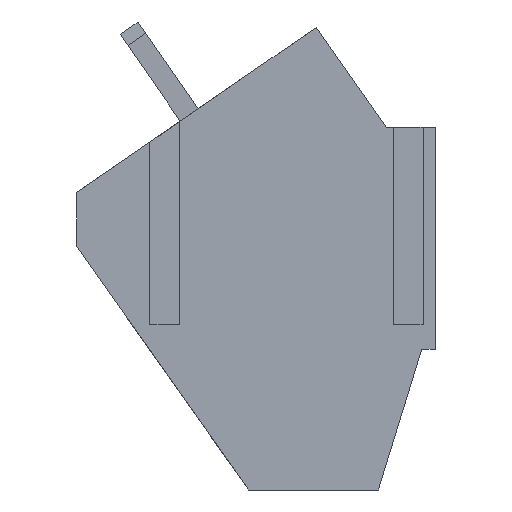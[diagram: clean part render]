
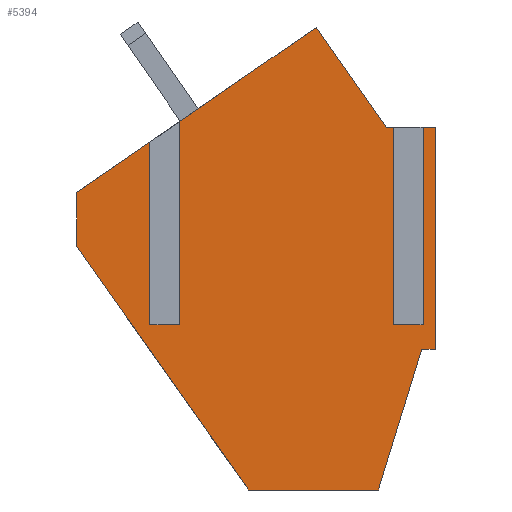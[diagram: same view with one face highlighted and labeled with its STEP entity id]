
A CAD part, left-side view. The second image highlights one B-rep face of the part: STEP entity #5394.
In plain terms, the highlighted planar face has unit normal (-1, 0, 0).
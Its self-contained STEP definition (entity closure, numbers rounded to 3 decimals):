
#110 = EDGE_CURVE ( 'NONE', #5283, #2569, #801, .T. ) ;
#178 = ORIENTED_EDGE ( 'NONE', *, *, #3933, .F. ) ;
#191 = VERTEX_POINT ( 'NONE', #5229 ) ;
#226 = DIRECTION ( 'NONE',  ( 0., -0.823, 0.568 ) ) ;
#402 = VERTEX_POINT ( 'NONE', #4635 ) ;
#486 = CARTESIAN_POINT ( 'NONE',  ( -12.5, 8.75, 9.002 ) ) ;
#518 = VERTEX_POINT ( 'NONE', #5185 ) ;
#544 = CARTESIAN_POINT ( 'NONE',  ( -12.5, 5.79, 6.1 ) ) ;
#713 = DIRECTION ( 'NONE',  ( 0., 1., 0. ) ) ;
#730 = CARTESIAN_POINT ( 'NONE',  ( -12.5, -3.79, 13.4 ) ) ;
#748 = LINE ( 'NONE', #1332, #2896 ) ;
#801 = LINE ( 'NONE', #730, #3848 ) ;
#831 = DIRECTION ( 'NONE',  ( 0., 1., 0. ) ) ;
#834 = VECTOR ( 'NONE', #1026, 1000. ) ;
#842 = CARTESIAN_POINT ( 'NONE',  ( -12.5, -2.7, 13.4 ) ) ;
#862 = EDGE_CURVE ( 'NONE', #2372, #4240, #748, .T. ) ;
#875 = VECTOR ( 'NONE', #226, 1000. ) ;
#984 = EDGE_CURVE ( 'NONE', #191, #6090, #5139, .T. ) ;
#1016 = EDGE_CURVE ( 'NONE', #6090, #1707, #3454, .T. ) ;
#1026 = DIRECTION ( 'NONE',  ( 0., 0., 1. ) ) ;
#1065 = VERTEX_POINT ( 'NONE', #1363 ) ;
#1160 = VECTOR ( 'NONE', #5336, 1000. ) ;
#1189 = DIRECTION ( 'NONE',  ( 0., -0.575, -0.818 ) ) ;
#1233 = LINE ( 'NONE', #1823, #5078 ) ;
#1250 = LINE ( 'NONE', #1864, #5706 ) ;
#1274 = VECTOR ( 'NONE', #1189, 1000. ) ;
#1277 = VECTOR ( 'NONE', #831, 1000. ) ;
#1332 = CARTESIAN_POINT ( 'NONE',  ( -12.5, -4.5, 5.2 ) ) ;
#1363 = CARTESIAN_POINT ( 'NONE',  ( -12.5, -3.21, 13.4 ) ) ;
#1399 = CARTESIAN_POINT ( 'NONE',  ( -12.5, -4.5, 13.4 ) ) ;
#1495 = EDGE_CURVE ( 'NONE', #3803, #3348, #4930, .T. ) ;
#1572 = EDGE_CURVE ( 'NONE', #402, #1825, #5053, .T. ) ;
#1707 = VERTEX_POINT ( 'NONE', #3279 ) ;
#1716 = DIRECTION ( 'NONE',  ( 1., 0., 0. ) ) ;
#1729 = ORIENTED_EDGE ( 'NONE', *, *, #1495, .T. ) ;
#1805 = LINE ( 'NONE', #5327, #1277 ) ;
#1823 = CARTESIAN_POINT ( 'NONE',  ( -12.5, 5.21, 6.1 ) ) ;
#1825 = VERTEX_POINT ( 'NONE', #5955 ) ;
#1832 = LINE ( 'NONE', #2249, #4594 ) ;
#1864 = CARTESIAN_POINT ( 'NONE',  ( -12.5, -3.21, 13.4 ) ) ;
#1866 = ORIENTED_EDGE ( 'NONE', *, *, #4664, .F. ) ;
#1902 = AXIS2_PLACEMENT_3D ( 'NONE', #5564, #1716, #5069 ) ;
#1937 = LINE ( 'NONE', #4452, #6096 ) ;
#1945 = DIRECTION ( 'NONE',  ( 0., 0., -1. ) ) ;
#1962 = ORIENTED_EDGE ( 'NONE', *, *, #110, .F. ) ;
#1994 = DIRECTION ( 'NONE',  ( 0., 1., 0. ) ) ;
#2017 = EDGE_CURVE ( 'NONE', #5499, #402, #3057, .T. ) ;
#2108 = ORIENTED_EDGE ( 'NONE', *, *, #6345, .F. ) ;
#2168 = EDGE_CURVE ( 'NONE', #191, #5499, #1233, .T. ) ;
#2244 = EDGE_CURVE ( 'NONE', #2569, #2372, #4944, .T. ) ;
#2249 = CARTESIAN_POINT ( 'NONE',  ( -12.5, -4., 5.2 ) ) ;
#2272 = VECTOR ( 'NONE', #713, 1000. ) ;
#2328 = ORIENTED_EDGE ( 'NONE', *, *, #2168, .F. ) ;
#2372 = VERTEX_POINT ( 'NONE', #3522 ) ;
#2386 = CARTESIAN_POINT ( 'NONE',  ( -12.5, -4., 5.2 ) ) ;
#2416 = CARTESIAN_POINT ( 'NONE',  ( -12.5, 5.79, 6.1 ) ) ;
#2468 = ORIENTED_EDGE ( 'NONE', *, *, #862, .F. ) ;
#2558 = EDGE_LOOP ( 'NONE', ( #178, #4994, #3604, #2328, #3574, #4254, #6077, #4222, #6386, #1866, #2108, #2468, #5714, #1962, #5703, #1729, #4394 ) ) ;
#2569 = VERTEX_POINT ( 'NONE', #2819 ) ;
#2758 = DIRECTION ( 'NONE',  ( 0., 0., -1. ) ) ;
#2819 = CARTESIAN_POINT ( 'NONE',  ( -12.5, -4.5, 13.4 ) ) ;
#2896 = VECTOR ( 'NONE', #5657, 1000. ) ;
#3057 = LINE ( 'NONE', #4601, #4961 ) ;
#3253 = VERTEX_POINT ( 'NONE', #5514 ) ;
#3279 = CARTESIAN_POINT ( 'NONE',  ( -12.5, 5.79, 13.036 ) ) ;
#3296 = LINE ( 'NONE', #842, #1160 ) ;
#3348 = VERTEX_POINT ( 'NONE', #5274 ) ;
#3454 = LINE ( 'NONE', #544, #834 ) ;
#3458 = VERTEX_POINT ( 'NONE', #5919 ) ;
#3522 = CARTESIAN_POINT ( 'NONE',  ( -12.5, -4.5, 5.2 ) ) ;
#3574 = ORIENTED_EDGE ( 'NONE', *, *, #984, .T. ) ;
#3588 = PLANE ( 'NONE',  #1902 ) ;
#3600 = CARTESIAN_POINT ( 'NONE',  ( -12.5, -0.1, 17.099 ) ) ;
#3604 = ORIENTED_EDGE ( 'NONE', *, *, #2017, .F. ) ;
#3696 = EDGE_CURVE ( 'NONE', #3992, #3458, #1937, .T. ) ;
#3706 = FACE_OUTER_BOUND ( 'NONE', #2558, .T. ) ;
#3710 = CARTESIAN_POINT ( 'NONE',  ( -12.5, 5.21, 6.1 ) ) ;
#3743 = DIRECTION ( 'NONE',  ( 0., 0.576, 0.817 ) ) ;
#3803 = VERTEX_POINT ( 'NONE', #4654 ) ;
#3848 = VECTOR ( 'NONE', #5258, 1000. ) ;
#3900 = EDGE_CURVE ( 'NONE', #5283, #3803, #5364, .T. ) ;
#3933 = EDGE_CURVE ( 'NONE', #1825, #1065, #3296, .T. ) ;
#3992 = VERTEX_POINT ( 'NONE', #486 ) ;
#4222 = ORIENTED_EDGE ( 'NONE', *, *, #3696, .F. ) ;
#4240 = VERTEX_POINT ( 'NONE', #2386 ) ;
#4254 = ORIENTED_EDGE ( 'NONE', *, *, #1016, .T. ) ;
#4270 = DIRECTION ( 'NONE',  ( 0., 0., 1. ) ) ;
#4282 = DIRECTION ( 'NONE',  ( 0., 0.294, -0.956 ) ) ;
#4284 = EDGE_CURVE ( 'NONE', #3253, #3992, #5332, .T. ) ;
#4394 = ORIENTED_EDGE ( 'NONE', *, *, #4648, .F. ) ;
#4419 = DIRECTION ( 'NONE',  ( 0., 0., 1. ) ) ;
#4452 = CARTESIAN_POINT ( 'NONE',  ( -12.5, 8.75, 9.002 ) ) ;
#4466 = VECTOR ( 'NONE', #3743, 1000. ) ;
#4594 = VECTOR ( 'NONE', #4282, 1000. ) ;
#4601 = CARTESIAN_POINT ( 'NONE',  ( -12.5, 5.21, 13.436 ) ) ;
#4635 = CARTESIAN_POINT ( 'NONE',  ( -12.5, -0.1, 17.099 ) ) ;
#4648 = EDGE_CURVE ( 'NONE', #1065, #3348, #1250, .T. ) ;
#4654 = CARTESIAN_POINT ( 'NONE',  ( -12.5, -3.79, 6.1 ) ) ;
#4664 = EDGE_CURVE ( 'NONE', #518, #3253, #1805, .T. ) ;
#4720 = LINE ( 'NONE', #5107, #875 ) ;
#4742 = DIRECTION ( 'NONE',  ( 0., 0., -1. ) ) ;
#4817 = CARTESIAN_POINT ( 'NONE',  ( -12.5, 2.4, 0. ) ) ;
#4917 = CARTESIAN_POINT ( 'NONE',  ( -12.5, -3.79, 13.4 ) ) ;
#4930 = LINE ( 'NONE', #6373, #5296 ) ;
#4944 = LINE ( 'NONE', #1399, #5390 ) ;
#4961 = VECTOR ( 'NONE', #5981, 1000. ) ;
#4994 = ORIENTED_EDGE ( 'NONE', *, *, #1572, .F. ) ;
#5053 = LINE ( 'NONE', #3600, #1274 ) ;
#5069 = DIRECTION ( 'NONE',  ( 0., 1., 0. ) ) ;
#5078 = VECTOR ( 'NONE', #4270, 1000. ) ;
#5107 = CARTESIAN_POINT ( 'NONE',  ( -12.5, 8.75, 10.994 ) ) ;
#5139 = LINE ( 'NONE', #3710, #2272 ) ;
#5185 = CARTESIAN_POINT ( 'NONE',  ( -12.5, -2.4, 0. ) ) ;
#5229 = CARTESIAN_POINT ( 'NONE',  ( -12.5, 5.21, 6.1 ) ) ;
#5258 = DIRECTION ( 'NONE',  ( 0., -1., 0. ) ) ;
#5274 = CARTESIAN_POINT ( 'NONE',  ( -12.5, -3.21, 6.1 ) ) ;
#5283 = VERTEX_POINT ( 'NONE', #4917 ) ;
#5296 = VECTOR ( 'NONE', #1994, 1000. ) ;
#5301 = CARTESIAN_POINT ( 'NONE',  ( -12.5, 5.21, 13.436 ) ) ;
#5327 = CARTESIAN_POINT ( 'NONE',  ( -12.5, -2.4, 0. ) ) ;
#5332 = LINE ( 'NONE', #4817, #4466 ) ;
#5336 = DIRECTION ( 'NONE',  ( 0., -1., 0. ) ) ;
#5357 = EDGE_CURVE ( 'NONE', #3458, #1707, #4720, .T. ) ;
#5364 = LINE ( 'NONE', #5848, #5694 ) ;
#5390 = VECTOR ( 'NONE', #1945, 1000. ) ;
#5394 = ADVANCED_FACE ( 'NONE', ( #3706 ), #3588, .F. ) ;
#5499 = VERTEX_POINT ( 'NONE', #5301 ) ;
#5514 = CARTESIAN_POINT ( 'NONE',  ( -12.5, 2.4, 0. ) ) ;
#5564 = CARTESIAN_POINT ( 'NONE',  ( -12.5, 0., 0. ) ) ;
#5657 = DIRECTION ( 'NONE',  ( 0., 1., 0. ) ) ;
#5694 = VECTOR ( 'NONE', #2758, 1000. ) ;
#5703 = ORIENTED_EDGE ( 'NONE', *, *, #3900, .T. ) ;
#5706 = VECTOR ( 'NONE', #4742, 1000. ) ;
#5714 = ORIENTED_EDGE ( 'NONE', *, *, #2244, .F. ) ;
#5848 = CARTESIAN_POINT ( 'NONE',  ( -12.5, -3.79, 13.4 ) ) ;
#5919 = CARTESIAN_POINT ( 'NONE',  ( -12.5, 8.75, 10.994 ) ) ;
#5955 = CARTESIAN_POINT ( 'NONE',  ( -12.5, -2.7, 13.4 ) ) ;
#5981 = DIRECTION ( 'NONE',  ( 0., -0.823, 0.568 ) ) ;
#6077 = ORIENTED_EDGE ( 'NONE', *, *, #5357, .F. ) ;
#6090 = VERTEX_POINT ( 'NONE', #2416 ) ;
#6096 = VECTOR ( 'NONE', #4419, 1000. ) ;
#6345 = EDGE_CURVE ( 'NONE', #4240, #518, #1832, .T. ) ;
#6373 = CARTESIAN_POINT ( 'NONE',  ( -12.5, -3.79, 6.1 ) ) ;
#6386 = ORIENTED_EDGE ( 'NONE', *, *, #4284, .F. ) ;
